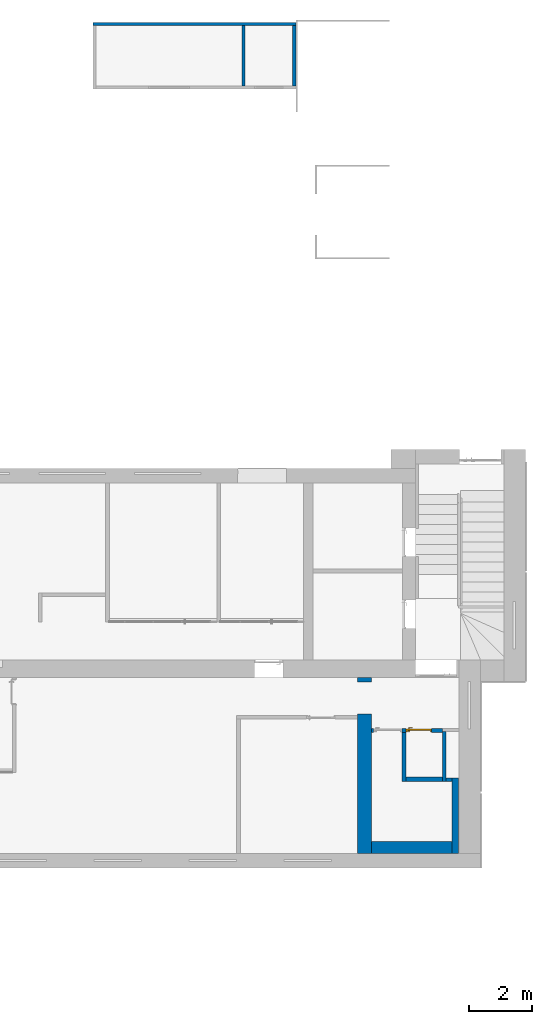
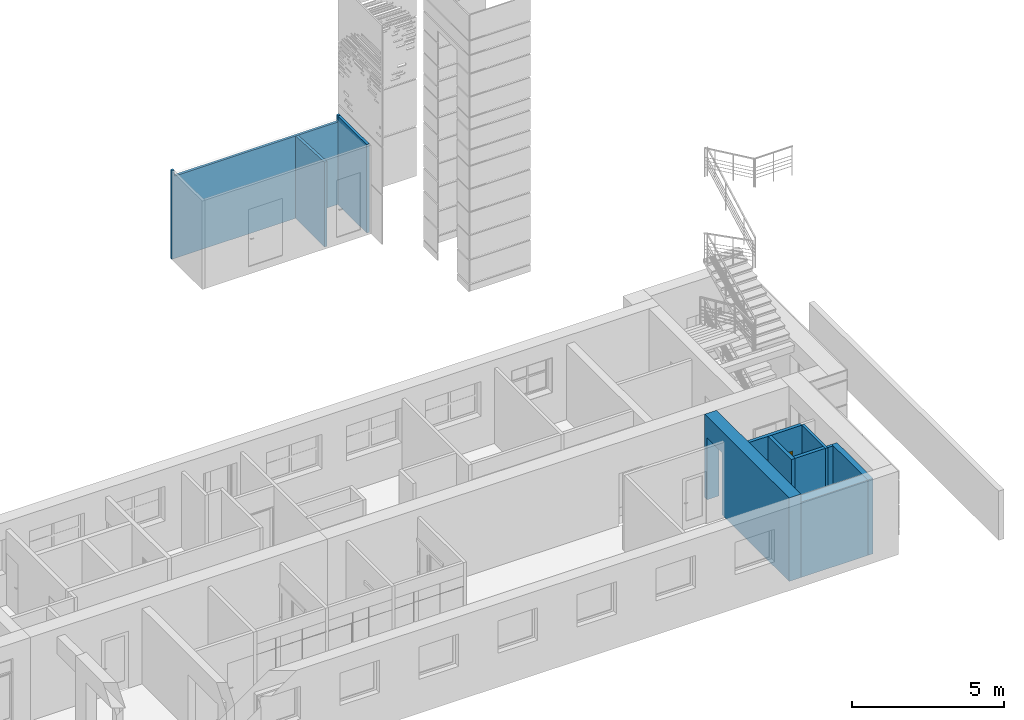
# One storey, part 28 of 49: 11 walls, 1 door, 13 openings.
"""IFC2X3 building model written with IfcOpenShell, lengths in millimetres."""

import ifcopenshell
import ifcopenshell.guid

model = None  # the IFC model being written
_history = None  # IfcOwnerHistory: only IFC2X3 demands one
_inside = {}  # id of a spatial element -> (the spatial element, [elements in it])
_under = {}  # id of a project, library or spatial element -> (it, [spatial elements below it])
_declared = {}  # id of a project -> (the project, [libraries it declares])
_typed = {}  # id of a type object -> (the type object, [elements of that type])
_made_of = {}  # id of a material, layer set ... -> (it, [elements and type objects made of it])


def new_model(schema):
    """Start an empty IFC model of exactly this schema.

    Asked for "IFC4X3", IfcOpenShell would pick the latest addendum, in which some entities
    have other attributes; the version numbers below select the first issue.
    IFC2X3 requires an IfcOwnerHistory on every rooted entity: one is made here for all.
    """
    global model, _history
    if schema == "IFC4X3":
        model = ifcopenshell.file(schema_version=(4, 3, 0, 0))
    else:
        model = ifcopenshell.file(schema=schema)
    _inside.clear()
    _under.clear()
    _declared.clear()
    _typed.clear()
    _made_of.clear()
    _history = None
    if model.schema == "IFC2X3":
        org = make("IfcOrganization", Name="unknown")
        user = make(
            "IfcPersonAndOrganization",
            ThePerson=make("IfcPerson", FamilyName="unknown"),
            TheOrganization=org,
        )
        app = make(
            "IfcApplication",
            ApplicationDeveloper=org,
            Version="unknown",
            ApplicationFullName="unknown",
            ApplicationIdentifier="unknown",
        )
        _history = make(
            "IfcOwnerHistory",
            OwningUser=user,
            OwningApplication=app,
            ChangeAction="ADDED",
            CreationDate=0,
        )
    return model


def make(cls, **values):
    """One entity of the class cls with the attributes given. An attribute that is None is left unset."""
    return model.create_entity(
        cls, **{name: value for name, value in values.items() if value is not None}
    )


def entity(cls, *values):
    """Any entity or typed value of the class cls, its attributes in the order of the schema. None: left unset."""
    e = model.create_entity(cls)
    for i, value in enumerate(values):
        if value is not None:
            e[i] = value
    return e


def rooted(cls, **values):
    """An entity with a GlobalId (a new one), such as an element, a storey or a relation."""
    return make(cls, GlobalId=ifcopenshell.guid.new(), OwnerHistory=_history, **values)


def si_unit(unit_type, name, prefix=None):
    """IfcSIUnit, for example si_unit("LENGTHUNIT", "METRE", prefix="MILLI")."""
    return make("IfcSIUnit", UnitType=unit_type, Prefix=prefix, Name=name)


def converted_unit(unit_type, name, factor, base, dimensions=None, offset=None):
    """IfcConversionBasedUnit, such as the inch: factor (a typed value) times the base unit."""
    return make(
        "IfcConversionBasedUnit"
        if offset is None
        else "IfcConversionBasedUnitWithOffset",
        ConversionOffset=offset,
        Dimensions=None
        if dimensions is None
        else entity("IfcDimensionalExponents", *dimensions),
        UnitType=unit_type,
        Name=name,
        ConversionFactor=make(
            "IfcMeasureWithUnit", ValueComponent=factor, UnitComponent=base
        ),
    )


def derived_unit(unit_type, elements):
    """IfcDerivedUnit: a product of units, each with its exponent."""
    return make(
        "IfcDerivedUnit",
        Elements=[
            make("IfcDerivedUnitElement", Unit=unit, Exponent=power)
            for unit, power in elements
        ],
        UnitType=unit_type,
    )


def assignment(units):
    """IfcUnitAssignment: the units of a project."""
    return None if units is None else make("IfcUnitAssignment", Units=units)


def point(xyz):
    """IfcCartesianPoint."""
    return None if xyz is None else make("IfcCartesianPoint", Coordinates=xyz)


def direction(xyz):
    """IfcDirection."""
    return None if xyz is None else make("IfcDirection", DirectionRatios=xyz)


def frame(location, z_axis=None, x_axis=None):
    """IfcAxis2Placement3D, a coordinate frame: its origin and axes. An axis left out is left unset."""
    return make(
        "IfcAxis2Placement3D",
        Location=point(location),
        Axis=direction(z_axis),
        RefDirection=direction(x_axis),
    )


def frame_2d(location, x_axis=None):
    """IfcAxis2Placement2D, a coordinate frame in the plane: its origin and x axis."""
    return make(
        "IfcAxis2Placement2D", Location=point(location), RefDirection=direction(x_axis)
    )


def origin():
    """The frame at (0, 0, 0) with its axes left unset."""
    return frame((0.0, 0.0, 0.0))


def origin_2d_with_axis():
    """The frame at (0, 0) in the plane with the x axis (1, 0) written out."""
    return frame_2d((0.0, 0.0), x_axis=(1.0, 0.0))


def place(relative_to, where):
    """IfcLocalPlacement: puts the frame where relative to a parent placement (None: the world)."""
    return make(
        "IfcLocalPlacement", PlacementRelTo=relative_to, RelativePlacement=where
    )


def context(
    kind, dimensions, precision=None, world=None, true_north=None, identifier=None
):
    """IfcGeometricRepresentationContext, for example the 3D "Model" context."""
    return make(
        "IfcGeometricRepresentationContext",
        ContextIdentifier=identifier,
        ContextType=kind,
        CoordinateSpaceDimension=dimensions,
        Precision=precision,
        WorldCoordinateSystem=world,
        TrueNorth=true_north,
    )


def subcontext(parent, identifier, kind, view, scale=None):
    """IfcGeometricRepresentationSubContext, for example "Body" below "Model"."""
    return make(
        "IfcGeometricRepresentationSubContext",
        ContextIdentifier=identifier,
        ContextType=kind,
        ParentContext=parent,
        TargetScale=scale,
        TargetView=view,
    )


def project(units=None, contexts=None):
    """IfcProject with its units and contexts."""
    return rooted(
        "IfcProject",
        Name="project",
        RepresentationContexts=contexts,
        UnitsInContext=assignment(units),
    )


def spatial(cls, under=None, at=None, **own):
    """A site, building, storey or space (cls), placed at a placement, below another one or the project."""
    s = rooted(cls, ObjectPlacement=at, **own)
    if under is not None:
        _under.setdefault(under.id(), (under, []))[1].append(s)
    return s


def polyline(points):
    """IfcPolyline through the points."""
    return make("IfcPolyline", Points=[point(p) for p in points])


def profile(cls, at=None, kind="AREA", **sizes):
    """A parametric profile (cls). Its sizes go by their IFC names, for example OverallWidth=200.0."""
    return make(cls, ProfileType=kind, Position=at, **sizes)


def rectangle(**sizes):
    """IfcRectangleProfileDef."""
    return profile("IfcRectangleProfileDef", **sizes)


def extrude(swept, where, along, depth):
    """IfcExtrudedAreaSolid: the profile swept, set in the frame where, extruded along a direction by depth."""
    return make(
        "IfcExtrudedAreaSolid",
        SweptArea=swept,
        Position=where,
        ExtrudedDirection=direction(along),
        Depth=depth,
    )


def clip(a, b, op="DIFFERENCE"):
    """IfcBooleanClippingResult: the solid a cut by the half space b."""
    return make(
        "IfcBooleanClippingResult", Operator=op, FirstOperand=a, SecondOperand=b
    )


def bounded_halfspace(plane, agree, where, boundary):
    """IfcPolygonalBoundedHalfSpace: a half space limited to a polygon's prism."""
    return make(
        "IfcPolygonalBoundedHalfSpace",
        BaseSurface=make("IfcPlane", Position=plane),
        AgreementFlag=agree,
        Position=where,
        PolygonalBoundary=boundary,
    )


def faces_of(points, faces, orient=None, outer=None):
    """IfcFace entities. A face is a list of loops; a loop is a list of indices into points, from 0.

    orient and outer hold one flag for each loop. By default every Orientation is true, the
    first loop of a face is its IfcFaceOuterBound and the others are IfcFaceBound.
    """
    made = []
    for i, loops in enumerate(faces):
        bounds = []
        for j, loop in enumerate(loops):
            is_outer = j == 0 if outer is None else outer[i][j]
            bounds.append(
                make(
                    "IfcFaceOuterBound" if is_outer else "IfcFaceBound",
                    Bound=make("IfcPolyLoop", Polygon=[points[k] for k in loop]),
                    Orientation=True if orient is None else orient[i][j],
                )
            )
        made.append(make("IfcFace", Bounds=bounds))
    return made


def faceted_brep(points, faces, orient=None, outer=None, voids=None):
    """IfcFacetedBrep: a solid bounded by flat faces; with voids (closed shells), ...WithVoids."""
    shared = [point(p) for p in points]
    hull = make("IfcClosedShell", CfsFaces=faces_of(shared, faces, orient, outer))
    if voids is None:
        return make("IfcFacetedBrep", Outer=hull)
    return make(
        "IfcFacetedBrepWithVoids",
        Outer=hull,
        Voids=[
            make(cls, CfsFaces=faces_of(shared, fs, o, b)) for cls, fs, o, b in voids
        ],
    )


def shape(context_of_items, identifier, shape_type, items):
    """IfcShapeRepresentation: the items that make up one representation, for example the "Body"."""
    return make(
        "IfcShapeRepresentation",
        ContextOfItems=context_of_items,
        RepresentationIdentifier=identifier,
        RepresentationType=shape_type,
        Items=items,
    )


def source(mapping_origin, context_of_items, identifier, shape_type, items):
    """IfcRepresentationMap: a shape defined once, which mapped items show again and again."""
    return make(
        "IfcRepresentationMap",
        MappingOrigin=mapping_origin,
        MappedRepresentation=shape(context_of_items, identifier, shape_type, items),
    )


def transform(
    local_origin,
    x_axis=None,
    y_axis=None,
    z_axis=None,
    scale=None,
    scale2=None,
    scale3=None,
    uniform=True,
):
    """IfcCartesianTransformationOperator3D, or its non-uniform kind. x_axis, y_axis, z_axis: its Axis1, 2, 3."""
    if uniform:
        return make(
            "IfcCartesianTransformationOperator3D",
            Axis1=direction(x_axis),
            Axis2=direction(y_axis),
            LocalOrigin=point(local_origin),
            Scale=scale,
            Axis3=direction(z_axis),
        )
    return make(
        "IfcCartesianTransformationOperator3DnonUniform",
        Axis1=direction(x_axis),
        Axis2=direction(y_axis),
        LocalOrigin=point(local_origin),
        Scale=scale,
        Axis3=direction(z_axis),
        Scale2=scale2,
        Scale3=scale3,
    )


def mapped(mapping_source, mapping_target):
    """IfcMappedItem: shows the shape of a source again, moved by a transform."""
    return make(
        "IfcMappedItem", MappingSource=mapping_source, MappingTarget=mapping_target
    )


def material(Name=None, Category=None):
    """IfcMaterial."""
    return make("IfcMaterial", Name=Name, Category=Category)


def material_list(materials):
    """IfcMaterialList."""
    return make("IfcMaterialList", Materials=materials)


def layer(
    of_material, thickness, ventilated=None, Name=None, Category=None, Priority=None
):
    """IfcMaterialLayer: one layer of a wall or slab, of a material (None: an air gap)."""
    return make(
        "IfcMaterialLayer",
        Material=of_material,
        LayerThickness=thickness,
        IsVentilated=ventilated,
        Name=Name,
        Category=Category,
        Priority=Priority,
    )


def layer_set(layers, Name=None):
    """IfcMaterialLayerSet."""
    return make("IfcMaterialLayerSet", MaterialLayers=layers, LayerSetName=Name)


def layer_usage(for_layer_set, set_direction, sense, offset, extent=None):
    """IfcMaterialLayerSetUsage: how a layer set lies in its element."""
    return make(
        "IfcMaterialLayerSetUsage",
        ForLayerSet=for_layer_set,
        LayerSetDirection=set_direction,
        DirectionSense=sense,
        OffsetFromReferenceLine=offset,
        ReferenceExtent=extent,
    )


def made_of(thing, what):
    """Note that an element or type object is made of a material, layer set ...; save() writes the relation."""
    if what is not None:
        _made_of.setdefault(what.id(), (what, []))[1].append(thing)
    return thing


def type_object(cls, material=None, **own):
    """A type object (cls), such as IfcWallType, which elements share."""
    return made_of(rooted(cls, **own), material)


def type_shapes(of_type, sources):
    """Give a type object the sources (RepresentationMaps) that its elements show as mapped items."""
    of_type.RepresentationMaps = sources


def element(
    cls,
    number,
    at=None,
    inside=None,
    cuts=None,
    type_object=None,
    material=None,
    context=None,
    identifier="Body",
    shape_type=None,
    held_by="IfcProductDefinitionShape",
    body=None,
    shapes=None,
    **own,
):
    """One element of the class cls, such as IfcWall. Its Tag is "e" and its number.

    at: its placement. inside: the storey or other place that contains it. cuts: it is an
    opening in that element (IfcRelVoidsElement). A single representation is given by context,
    identifier, shape_type and body (its items); several are given by shapes. held_by: the class
    of the entity that holds the representations. save() writes the other relations.
    """
    e = rooted(cls, Tag="e%d" % number, ObjectPlacement=at, **own)
    if body is not None:
        shapes = [shape(context, identifier, shape_type, body)]
    if shapes is not None:
        e.Representation = make(held_by, Representations=shapes)
    if inside is not None:
        _inside.setdefault(inside.id(), (inside, []))[1].append(e)
    if cuts is not None:
        rooted(
            "IfcRelVoidsElement", RelatingBuildingElement=cuts, RelatedOpeningElement=e
        )
    if type_object is not None:
        _typed.setdefault(type_object.id(), (type_object, []))[1].append(e)
    return made_of(e, material)


def fill(opening, filler):
    """IfcRelFillsElement: the door or window that sits in an opening."""
    return rooted(
        "IfcRelFillsElement",
        RelatingOpeningElement=opening,
        RelatedBuildingElement=filler,
    )


def aggregate(whole, parts):
    """IfcRelAggregates: a whole, such as a stair, and the parts it consists of."""
    return rooted("IfcRelAggregates", RelatingObject=whole, RelatedObjects=parts)


def save(model, path):
    """Write the relations noted so far, then the file.

    IfcRelAggregates (storeys below a building ...), IfcRelContainedInSpatialStructure (elements
    in a storey), IfcRelDefinesByType, IfcRelAssociatesMaterial and IfcRelDeclares: one each for
    every whole, place, type object, material and project.
    """
    for whole, parts in _under.values():
        aggregate(whole, parts)
    for where, things in _inside.values():
        rooted(
            "IfcRelContainedInSpatialStructure",
            RelatedElements=things,
            RelatingStructure=where,
        )
    for kind, things in _typed.values():
        rooted("IfcRelDefinesByType", RelatedObjects=things, RelatingType=kind)
    for what, things in _made_of.values():
        rooted("IfcRelAssociatesMaterial", RelatedObjects=things, RelatingMaterial=what)
    for by, libraries in _declared.values():
        rooted("IfcRelDeclares", RelatingContext=by, RelatedDefinitions=libraries)
    model.write(path)


model = new_model("IFC2X3")

# Units and contexts
model_context = context("Model", 3, precision=0.01, world=origin(), true_north=direction((6.12303176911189e-17, 1.0)))
body_context = subcontext(model_context, "Body", "Model", "MODEL_VIEW")
ifc_project = project(units=[si_unit("LENGTHUNIT", "METRE", prefix="MILLI"), si_unit("AREAUNIT", "SQUARE_METRE"), si_unit("VOLUMEUNIT", "CUBIC_METRE"), converted_unit("PLANEANGLEUNIT", "DEGREE", entity("IfcRatioMeasure", 0.0174532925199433), si_unit("PLANEANGLEUNIT", "RADIAN"), dimensions=[0, 0, 0, 0, 0, 0, 0]), si_unit("MASSUNIT", "GRAM", prefix="KILO"), derived_unit("MASSDENSITYUNIT", [(si_unit("MASSUNIT", "GRAM", prefix="KILO"), 1), (si_unit("LENGTHUNIT", "METRE"), -3)]), si_unit("TIMEUNIT", "SECOND"), si_unit("FREQUENCYUNIT", "HERTZ"), si_unit("THERMODYNAMICTEMPERATUREUNIT", "DEGREE_CELSIUS"), derived_unit("THERMALTRANSMITTANCEUNIT", [(si_unit("MASSUNIT", "GRAM", prefix="KILO"), 1), (si_unit("THERMODYNAMICTEMPERATUREUNIT", "KELVIN"), -1), (si_unit("TIMEUNIT", "SECOND"), -3)]), derived_unit("VOLUMETRICFLOWRATEUNIT", [(si_unit("LENGTHUNIT", "METRE"), 3), (si_unit("TIMEUNIT", "SECOND"), -1)]), si_unit("ELECTRICCURRENTUNIT", "AMPERE"), si_unit("ELECTRICVOLTAGEUNIT", "VOLT"), si_unit("POWERUNIT", "WATT"), si_unit("FORCEUNIT", "NEWTON", prefix="KILO"), si_unit("ILLUMINANCEUNIT", "LUX"), si_unit("LUMINOUSFLUXUNIT", "LUMEN"), si_unit("LUMINOUSINTENSITYUNIT", "CANDELA"), derived_unit("USERDEFINED", [(si_unit("MASSUNIT", "GRAM", prefix="KILO"), -1), (si_unit("LENGTHUNIT", "METRE"), -2), (si_unit("TIMEUNIT", "SECOND"), 3), (si_unit("LUMINOUSFLUXUNIT", "LUMEN"), 1)]), derived_unit("LINEARVELOCITYUNIT", [(si_unit("LENGTHUNIT", "METRE"), 1), (si_unit("TIMEUNIT", "SECOND"), -1)]), si_unit("PRESSUREUNIT", "PASCAL"), derived_unit("USERDEFINED", [(si_unit("LENGTHUNIT", "METRE"), -2), (si_unit("MASSUNIT", "GRAM", prefix="KILO"), 1), (si_unit("TIMEUNIT", "SECOND"), -2)])], contexts=[model_context])

# Site, building, storey
site_placement = place(None, frame((-151.875543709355, 2715.0, 0.0)))
site = spatial("IfcSite", under=ifc_project, at=site_placement, Name="Surface", CompositionType="ELEMENT")
building_placement = place(site_placement, origin())
building = spatial("IfcBuilding", under=site, at=building_placement, CompositionType="ELEMENT")
storey_placement = place(building_placement, origin())
storey = spatial("IfcBuildingStorey", under=building, at=storey_placement, Name="1 korrus", CompositionType="ELEMENT", Elevation=3.0969999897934e-10)

# Wall, opening
ifc_material_1 = material(Name="__Hall krohv")
ifc_layer_1 = layer(ifc_material_1, 10.0)
ifc_material_2 = material(Name="Tellis")
ifc_layer_2 = layer(ifc_material_2, 180.0)
ifc_layer_3 = layer(ifc_material_1, 10.0)
ifc_layer_set_1 = layer_set([ifc_layer_1, ifc_layer_2, ifc_layer_3], Name="Basic Wall:SS-01_ol.olev tellissein200")
ifc_layer_usage_1 = layer_usage(ifc_layer_set_1, "AXIS2", "NEGATIVE", 100.0)
wall_type_1 = type_object("IfcWallType", Name="Basic Wall:SS-01_ol.olev tellissein200", PredefinedType="STANDARD", material=ifc_layer_set_1)
wall_1_placement = place(storey_placement, frame((33631.6162682, 459.904632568, 0.0), z_axis=(0.0, 0.0, 1.0), x_axis=(0.0, 1.0, 0.0)))
wall_1 = element("IfcWallStandardCase", 1, at=wall_1_placement, inside=storey, type_object=wall_type_1, material=ifc_layer_usage_1, Name="SEIN - 003", ObjectType="Basic Wall:SS-01_ol.olev tellissein200", context=body_context, shape_type="SweptSolid", body=[
    extrude(rectangle(XDim=2375.87076719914, YDim=199.999999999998, at=frame_2d((1187.93538359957, 0.0), x_axis=(-1.0, 0.0))), origin(), (0.0, 0.0, 1.0), 3020.0),
])
opening_1_placement = place(wall_1_placement, origin())
element("IfcOpeningElement", 2, at=opening_1_placement, cuts=wall_1, Name="SEIN - 003", ObjectType="Opening", context=body_context, shape_type="SweptSolid", body=[
    extrude(rectangle(XDim=1300.0, YDim=1500.0, at=frame_2d((0.0, -2.27373675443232e-13), x_axis=(1.0, 0.0))), frame((4681.92792545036, -1282.5, 2010.0), z_axis=(0.0, 1.0, 0.0), x_axis=(0.0, 0.0, 1.0)), (0.0, 0.0, 1.0), 1666.5),
])

ifc_layer_4 = layer(ifc_material_1, 10.0)
ifc_layer_5 = layer(ifc_material_2, 430.0)
ifc_layer_6 = layer(ifc_material_1, 10.0)
ifc_layer_set_2 = layer_set([ifc_layer_4, ifc_layer_5, ifc_layer_6], Name="Basic Wall:SS-01_ol.olev tellissein450")
ifc_layer_usage_2 = layer_usage(ifc_layer_set_2, "AXIS2", "NEGATIVE", 225.0)
wall_type_2 = type_object("IfcWallType", Name="Basic Wall:SS-01_ol.olev tellissein450", PredefinedType="STANDARD", material=ifc_layer_set_2)
wall_2_placement = place(storey_placement, frame((30769.0171594, 6010.0, 0.0), z_axis=(0.0, 0.0, 1.0), x_axis=(0.0, -1.0, 0.0)))
wall_2 = element("IfcWallStandardCase", 3, at=wall_2_placement, inside=storey, type_object=wall_type_2, material=ifc_layer_usage_2, Name="SEIN - 002", ObjectType="Basic Wall:SS-01_ol.olev tellissein450", context=body_context, shape_type="SweptSolid", body=[
    extrude(rectangle(XDim=5550.09536743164, YDim=450.000000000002, at=frame_2d((2775.04768371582, 0.0), x_axis=(-1.0, 0.0))), origin(), (0.0, 0.0, 1.0), 3350.0),
])
opening_2_placement = place(wall_2_placement, origin())
element("IfcOpeningElement", 4, at=opening_2_placement, cuts=wall_2, Name="SEIN - 002", ObjectType="Opening", context=body_context, shape_type="SweptSolid", body=[
    extrude(rectangle(XDim=2490.0, YDim=1000.0, at=frame_2d((0.0, -7.95807864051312e-13), x_axis=(1.0, 0.0))), frame((647.332916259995, -225.0, 1245.0), z_axis=(0.0, 1.0, 0.0), x_axis=(0.0, 0.0, -1.0)), (0.0, 0.0, 1.0), 450.000000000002),
])

# Wall, openings
ifc_layer_7 = layer(ifc_material_1, 10.0)
ifc_layer_8 = layer(ifc_material_2, 350.0)
ifc_layer_9 = layer(ifc_material_1, 10.0)
ifc_layer_set_3 = layer_set([ifc_layer_7, ifc_layer_8, ifc_layer_9], Name="Basic Wall:SS-01_ol.olev tellissein370")
ifc_layer_usage_3 = layer_usage(ifc_layer_set_3, "AXIS2", "NEGATIVE", 185.0)
wall_type_3 = type_object("IfcWallType", Name="Basic Wall:SS-01_ol.olev tellissein370", PredefinedType="STANDARD", material=ifc_layer_set_3)
wall_3_placement = place(storey_placement, frame((30994.0171594, 644.904632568, 0.0)))
wall_3 = element("IfcWallStandardCase", 5, at=wall_3_placement, inside=storey, type_object=wall_type_3, material=ifc_layer_usage_3, Name="SEIN - 002", ObjectType="Basic Wall:SS-01_ol.olev tellissein370", context=body_context, shape_type="SweptSolid", body=[
    extrude(rectangle(XDim=2537.5991088, YDim=370.0, at=frame_2d((1268.7995544, 0.0), x_axis=(-1.0, 0.0))), origin(), (0.0, 0.0, 1.0), 3020.0),
])
opening_3_placement = place(wall_3_placement, origin())
element("IfcOpeningElement", 6, at=opening_3_placement, cuts=wall_3, Name="SEIN - 002", ObjectType="Opening", context=body_context, shape_type="SweptSolid", body=[
    extrude(rectangle(XDim=1300.0, YDim=1500.0, at=frame_2d((0.0, -5.11590769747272e-13), x_axis=(1.0, 0.0))), frame((-23013.2758951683, -1248.0, 2010.0), z_axis=(0.0, 1.0, 0.0), x_axis=(0.0, 0.0, 1.0)), (0.0, 0.0, 1.0), 1666.5),
])
opening_4_placement = place(wall_3_placement, origin())
element("IfcOpeningElement", 7, at=opening_4_placement, cuts=wall_3, Name="SEIN - 002", ObjectType="Opening", context=body_context, shape_type="SweptSolid", body=[
    extrude(rectangle(XDim=1300.0, YDim=1500.0, at=frame_2d((0.0, -1.08002495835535e-12), x_axis=(1.0, 0.0))), frame((-20013.2758951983, -1248.0, 2010.0), z_axis=(0.0, 1.0, 0.0), x_axis=(0.0, 0.0, 1.0)), (0.0, 0.0, 1.0), 1666.5),
])
opening_5_placement = place(wall_3_placement, origin())
element("IfcOpeningElement", 8, at=opening_5_placement, cuts=wall_3, Name="SEIN - 002", ObjectType="Opening", context=body_context, shape_type="SweptSolid", body=[
    extrude(rectangle(XDim=1300.0, YDim=1500.0, at=frame_2d((0.0, -2.1600499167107e-12), x_axis=(1.0, 0.0))), frame((-17013.2758951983, -1248.0, 2010.0), z_axis=(0.0, 1.0, 0.0), x_axis=(0.0, 0.0, 1.0)), (0.0, 0.0, 1.0), 1666.5),
])
opening_6_placement = place(wall_3_placement, origin())
element("IfcOpeningElement", 9, at=opening_6_placement, cuts=wall_3, Name="SEIN - 002", ObjectType="Opening", context=body_context, shape_type="SweptSolid", body=[
    extrude(rectangle(XDim=1300.0, YDim=1500.0, at=origin_2d_with_axis()), frame((-14013.2758951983, -1248.0, 2010.0), z_axis=(0.0, 1.0, 0.0), x_axis=(0.0, 0.0, 1.0)), (0.0, 0.0, 1.0), 1666.5),
])
opening_7_placement = place(wall_3_placement, origin())
element("IfcOpeningElement", 10, at=opening_7_placement, cuts=wall_3, Name="SEIN - 002", ObjectType="Opening", context=body_context, shape_type="SweptSolid", body=[
    extrude(rectangle(XDim=1300.0, YDim=1500.0, at=frame_2d((0.0, -1.08002495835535e-12), x_axis=(1.0, 0.0))), frame((-11013.2758951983, -1248.0, 2010.0), z_axis=(0.0, 1.0, 0.0), x_axis=(0.0, 0.0, 1.0)), (0.0, 0.0, 1.0), 1666.5),
])
opening_8_placement = place(wall_3_placement, origin())
element("IfcOpeningElement", 11, at=opening_8_placement, cuts=wall_3, Name="SEIN - 002", ObjectType="Opening", context=body_context, shape_type="SweptSolid", body=[
    extrude(rectangle(XDim=1300.0, YDim=1500.0, at=frame_2d((0.0, -2.1600499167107e-12), x_axis=(1.0, 0.0))), frame((-8013.27589519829, -1248.0, 2010.0), z_axis=(0.0, 1.0, 0.0), x_axis=(0.0, 0.0, 1.0)), (0.0, 0.0, 1.0), 1666.5),
])
opening_9_placement = place(wall_3_placement, origin())
element("IfcOpeningElement", 12, at=opening_9_placement, cuts=wall_3, Name="SEIN - 002", ObjectType="Opening", context=body_context, shape_type="SweptSolid", body=[
    extrude(rectangle(XDim=1300.0, YDim=1500.0, at=frame_2d((0.0, 2.1600499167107e-12), x_axis=(1.0, 0.0))), frame((-5013.2758951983, -1248.0, 2010.0), z_axis=(0.0, 1.0, 0.0), x_axis=(0.0, 0.0, 1.0)), (0.0, 0.0, 1.0), 1666.5),
])
opening_10_placement = place(wall_3_placement, origin())
element("IfcOpeningElement", 13, at=opening_10_placement, cuts=wall_3, Name="SEIN - 002", ObjectType="Opening", context=body_context, shape_type="SweptSolid", body=[
    extrude(rectangle(XDim=1300.0, YDim=1500.0, at=frame_2d((0.0, 2.1600499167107e-12), x_axis=(1.0, 0.0))), frame((-2013.2758951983, -1248.0, 2010.0), z_axis=(0.0, 1.0, 0.0), x_axis=(0.0, 0.0, 1.0)), (0.0, 0.0, 1.0), 1666.5),
])
opening_11_placement = place(wall_3_placement, origin())
element("IfcOpeningElement", 14, at=opening_11_placement, cuts=wall_3, Name="SEIN - 002", ObjectType="Opening", context=body_context, shape_type="SweptSolid", body=[
    extrude(rectangle(XDim=2540.00000000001, YDim=4120.0, at=frame_2d((0.0, 0.0), x_axis=(0.0, 1.0))), frame((-27494.016519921, -1709.0, 1270.0), z_axis=(0.0, 1.0, 0.0), x_axis=(1.0, 0.0, 0.0)), (0.0, 0.0, 1.0), 3048.0),
])

# Walls
ifc_material_3 = material(Name="Keraamiline_plaat")
ifc_layer_10 = layer(ifc_material_3, 10.0)
ifc_material_4 = material(Name="__Kips GKB_niiskuskindel")
ifc_layer_11 = layer(ifc_material_4, 12.5)
ifc_layer_12 = layer(ifc_material_4, 12.5)
ifc_material_5 = material(Name="__Soojustus EPS")
ifc_layer_13 = layer(ifc_material_5, 66.0)
ifc_layer_14 = layer(ifc_material_4, 12.5)
ifc_layer_15 = layer(ifc_material_4, 12.5)
ifc_layer_16 = layer(ifc_material_3, 10.0)
ifc_layer_set_4 = layer_set([ifc_layer_10, ifc_layer_11, ifc_layer_12, ifc_layer_13, ifc_layer_14, ifc_layer_15, ifc_layer_16], Name="Basic Wall:SS-5_Kipssein niiskete ruumide vahel")
ifc_layer_usage_4 = layer_usage(ifc_layer_set_4, "AXIS2", "NEGATIVE", 68.0)
wall_type_4 = type_object("IfcWallType", Name="Basic Wall:SS-5_Kipssein niiskete ruumide vahel", PredefinedType="STANDARD", material=ifc_layer_set_4)
wall_4_placement = place(storey_placement, frame((32080.1633575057, 2803.77539976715, 0.0)))
element("IfcWallStandardCase", 15, at=wall_4_placement, inside=storey, type_object=wall_type_4, material=ifc_layer_usage_4, Name="Basic Wall:SS-5_Kipssein niiskete ruumide vahel", ObjectType="Basic Wall:SS-5_Kipssein niiskete ruumide vahel", context=body_context, shape_type="SweptSolid", body=[
    extrude(rectangle(XDim=1151.59451440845, YDim=136.0, at=frame_2d((575.797257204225, 1.13686837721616e-13), x_axis=(-1.0, 0.0))), origin(), (0.0, 0.0, 1.0), 3020.0),
])
ifc_layer_usage_5 = layer_usage(ifc_layer_set_4, "AXIS2", "NEGATIVE", 68.0)
wall_5_placement = place(storey_placement, frame((32012.1633575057, 2735.77539976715, 0.0), z_axis=(0.0, 0.0, 1.0), x_axis=(0.0, 1.0, 0.0)))
element("IfcWallStandardCase", 16, at=wall_5_placement, inside=storey, type_object=wall_type_4, material=ifc_layer_usage_5, Name="Basic Wall:SS-5_Kipssein niiskete ruumide vahel", ObjectType="Basic Wall:SS-5_Kipssein niiskete ruumide vahel", context=body_context, shape_type="SweptSolid", body=[
    extrude(rectangle(XDim=1539.83427914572, YDim=136.000000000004, at=frame_2d((769.917139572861, 7.53175299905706e-13), x_axis=(-1.0, 0.0))), origin(), (0.0, 0.0, 1.0), 3020.0),
])

# Wall, openings, door
ifc_material_6 = material(Name="__Kips GN13_tava")
ifc_layer_17 = layer(ifc_material_6, 12.5)
ifc_layer_18 = layer(ifc_material_6, 12.5)
ifc_layer_19 = layer(ifc_material_5, 66.0)
ifc_layer_20 = layer(ifc_material_4, 12.5)
ifc_layer_21 = layer(ifc_material_4, 12.5)
ifc_layer_22 = layer(ifc_material_3, 10.0)
ifc_layer_set_5 = layer_set([ifc_layer_17, ifc_layer_18, ifc_layer_19, ifc_layer_20, ifc_layer_21, ifc_layer_22], Name="Basic Wall:SS-4_Kipssein tava ja niiske ruumi vahel")
ifc_layer_usage_6 = layer_usage(ifc_layer_set_5, "AXIS2", "NEGATIVE", 63.0)
wall_type_5 = type_object("IfcWallType", Name="Basic Wall:SS-4_Kipssein tava ja niiske ruumi vahel", PredefinedType="STANDARD", material=ifc_layer_set_5)
wall_6_placement = place(storey_placement, frame((30994.0171594, 4338.60967891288, 0.0)))
wall_6 = element("IfcWallStandardCase", 17, at=wall_6_placement, inside=storey, type_object=wall_type_5, material=ifc_layer_usage_6, Name="Basic Wall:SS-4_Kipssein tava ja niiske ruumi vahel", ObjectType="Basic Wall:SS-4_Kipssein tava ja niiske ruumi vahel", context=body_context, shape_type="SweptSolid", body=[
    extrude(rectangle(XDim=2237.7407125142, YDim=126.0, at=frame_2d((1118.8703562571, 1.06581410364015e-14), x_axis=(-1.0, 0.0))), origin(), (0.0, 0.0, 1.0), 3020.0),
])
opening_12_placement = place(wall_6_placement, frame((1090.16571471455, -63.0, 0.0)))
opening_12 = element("IfcOpeningElement", 18, at=opening_12_placement, cuts=wall_6, Name="Ühepoolsed:SU-05.:1", ObjectType="Opening", context=body_context, shape_type="SweptSolid", body=[
    extrude(rectangle(XDim=2099.99999999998, YDim=800.0, at=frame_2d((1049.99999999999, 400.0), x_axis=(1.0, 0.0))), frame((0.0, 0.0, 0.0), z_axis=(0.0, 1.0, 0.0), x_axis=(0.0, 0.0, 1.0)), (0.0, 0.0, 1.0), 126.0),
])
opening_13_placement = place(wall_6_placement, frame((50.1397079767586, -63.0, 0.0)))
element("IfcOpeningElement", 19, at=opening_13_placement, cuts=wall_6, Name="Ühepoolsed:SU-06.:1", ObjectType="Opening", context=body_context, shape_type="SweptSolid", body=[
    extrude(rectangle(XDim=2099.99999999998, YDim=900.0, at=frame_2d((1049.99999999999, 450.0), x_axis=(1.0, 0.0))), frame((0.0, 0.0, 0.0), z_axis=(0.0, 1.0, 0.0), x_axis=(0.0, 0.0, 1.0)), (0.0, 0.0, 1.0), 126.0),
])
ifc_material_7 = material(Name="_Alumiiniumprofiil - must")
ifc_material_8 = material(Name="__Uks_hele tamm")
ifc_material_list_1 = material_list([ifc_material_7, ifc_material_8])
ifc_material_list_2 = material_list([ifc_material_7, ifc_material_8])
door_style = type_object("IfcDoorStyle", Name="SU-05.", ConstructionType="NOTDEFINED", OperationType="FOLDING_TO_LEFT", ParameterTakesPrecedence=False, Sizeable=False, material=ifc_material_list_2)
shared_shape = source(origin(), body_context, "Body", "Brep", [
    faceted_brep([(100.0, 16.0, 1112.5), (100.0, 54.0, 1112.5), (75.0, 54.0, 1112.5), (75.0, 11.0, 1112.5), (195.0, 11.0, 1112.5), (195.0, 16.0, 1112.5), (100.0, 16.0, 1087.5), (195.0, 16.0, 1087.5), (195.0, 11.0, 1087.5), (75.0, 11.0, 1087.5), (75.0, 54.0, 1087.5), (100.0, 54.0, 1087.5)], [[[0, 1, 2, 3, 4, 5]], [[6, 7, 8, 9, 10, 11]], [[1, 0, 6, 11]], [[2, 1, 11, 10]], [[3, 2, 10, 9]], [[4, 3, 9, 8]], [[5, 4, 8, 7]], [[0, 5, 7, 6]]]),
    faceted_brep([(112.5, 54.0, 1137.5), (112.5, 56.0, 1137.5), (62.5000000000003, 56.0, 1137.5), (62.5000000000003, 54.0, 1137.5), (112.5, 54.0, 1017.5), (62.5000000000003, 54.0, 1017.5), (62.5000000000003, 56.0, 1017.5), (112.5, 56.0, 1017.5)], [[[0, 1, 2, 3]], [[4, 5, 6, 7]], [[1, 0, 4, 7]], [[2, 1, 7, 6]], [[3, 2, 6, 5]], [[0, 3, 5, 4]]]),
    faceted_brep([(100.0, 146.0, 1112.5), (195.0, 146.0, 1112.5), (195.0, 151.0, 1112.5), (75.0, 151.0, 1112.5), (75.0, 108.0, 1112.5), (100.0, 108.0, 1112.5), (100.0, 146.0, 1087.5), (100.0, 108.0, 1087.5), (75.0, 108.0, 1087.5), (75.0, 151.0, 1087.5), (195.0, 151.0, 1087.5), (195.0, 146.0, 1087.5)], [[[0, 1, 2, 3, 4, 5]], [[6, 7, 8, 9, 10, 11]], [[5, 7, 6, 0]], [[4, 8, 7, 5]], [[3, 9, 8, 4]], [[2, 10, 9, 3]], [[1, 11, 10, 2]], [[0, 6, 11, 1]]]),
    faceted_brep([(112.5, 108.0, 1137.5), (62.5000000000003, 108.0, 1137.5), (62.5000000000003, 106.0, 1137.5), (112.5, 106.0, 1137.5), (112.5, 108.0, 1017.5), (112.5, 106.0, 1017.5), (62.5000000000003, 106.0, 1017.5), (62.5000000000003, 108.0, 1017.5)], [[[0, 1, 2, 3]], [[4, 5, 6, 7]], [[3, 5, 4, 0]], [[2, 6, 5, 3]], [[1, 7, 6, 2]], [[0, 4, 7, 1]]]),
    faceted_brep([(800.0, 16.0, 0.0), (760.0, 16.0, 0.0), (760.0, 56.0, 0.0), (775.0, 56.0, 0.0), (775.0, 106.0, 0.0), (800.0, 106.0, 0.0), (800.0, 16.0, 2100.0), (0.0, 16.0, 2100.0), (0.0, 16.0, 0.0), (40.0, 16.0, 0.0), (40.0, 16.0, 2060.0), (760.0, 16.0, 2060.0), (760.0, 56.0, 2060.0), (40.0, 56.0, 2060.0), (40.0, 56.0, 0.0), (25.0, 56.0, 0.0), (25.0, 56.0, 2075.0), (775.0, 56.0, 2075.0), (775.0, 106.0, 2075.0), (25.0, 106.0, 2075.0), (25.0, 106.0, 0.0), (0.0, 106.0, 0.0), (0.0, 106.0, 2100.0), (800.0, 106.0, 2100.0)], [[[0, 1, 2, 3, 4, 5]], [[1, 0, 6, 7, 8, 9, 10, 11]], [[2, 1, 11, 12]], [[3, 2, 12, 13, 14, 15, 16, 17]], [[4, 3, 17, 18]], [[5, 4, 18, 19, 20, 21, 22, 23]], [[0, 5, 23, 6]], [[8, 7, 22, 21]], [[9, 8, 21, 20, 15, 14]], [[10, 9, 14, 13]], [[16, 15, 20, 19]], [[11, 10, 13, 12]], [[17, 16, 19, 18]], [[7, 6, 23, 22]]]),
    faceted_brep([(25.0, 56.0, 2075.0), (25.0, 56.0, 20.0), (775.0, 56.0, 20.0), (775.0, 56.0, 2075.0), (25.0, 106.0, 2075.0), (775.0, 106.0, 2075.0), (775.0, 106.0, 20.0), (25.0, 106.0, 20.0)], [[[0, 1, 2, 3]], [[4, 5, 6, 7]], [[1, 0, 4, 7]], [[2, 1, 7, 6]], [[3, 2, 6, 5]], [[0, 3, 5, 4]]]),
])
type_shapes(door_style, [shared_shape])
door_placement = place(opening_12_placement, origin())
door = element("IfcDoor", 20, at=door_placement, inside=storey, type_object=door_style, material=ifc_material_list_1, Name="Ühepoolsed:SU-05.", ObjectType="SU-05.", OverallHeight=2099.99999999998, OverallWidth=800.0, context=body_context, shape_type="MappedRepresentation", body=[
    mapped(shared_shape, transform((0.0, 0.0, 0.0), scale=1.0)),
])
fill(opening_12, door)

# Walls
ifc_material_9 = material(Name="__Helehall")
ifc_layer_23 = layer(ifc_material_9, 10.0)
ifc_material_10 = material(Name="__Kergblokk")
ifc_layer_24 = layer(ifc_material_10, 90.0)
ifc_layer_set_6 = layer_set([ifc_layer_23, ifc_layer_24], Name="Basic Wall:SS-6_Šahti sein EI-60")
ifc_layer_usage_7 = layer_usage(ifc_layer_set_6, "AXIS2", "POSITIVE", -50.0)
wall_type_6 = type_object("IfcWallType", Name="Basic Wall:SS-6_Šahti sein EI-60", PredefinedType="STANDARD", material=ifc_layer_set_6)
wall_7_placement = place(storey_placement, frame((33331.7578719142, 2785.77539976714, 0.0)))
element("IfcWallStandardCase", 21, at=wall_7_placement, inside=storey, type_object=wall_type_6, material=ifc_layer_usage_7, Name="Basic Wall:SS-6_Šahti sein EI-60", ObjectType="Basic Wall:SS-6_Šahti sein EI-60", context=body_context, shape_type="SweptSolid", body=[
    extrude(rectangle(XDim=199.858396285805, YDim=100.0, at=frame_2d((99.9291981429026, 0.0), x_axis=(-1.0, 0.0))), origin(), (0.0, 0.0, 1.0), 3020.0),
])
ifc_layer_usage_8 = layer_usage(ifc_layer_set_6, "AXIS2", "POSITIVE", -50.0)
wall_8_placement = place(storey_placement, frame((33281.7578719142, 4301.60967891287, 0.0), z_axis=(0.0, 0.0, 1.0), x_axis=(0.0, -1.0, 0.0)))
element("IfcWallStandardCase", 22, at=wall_8_placement, inside=storey, type_object=wall_type_6, material=ifc_layer_usage_8, Name="Basic Wall:SS-6_Šahti sein EI-60", ObjectType="Basic Wall:SS-6_Šahti sein EI-60", context=body_context, shape_type="SweptSolid", body=[
    extrude(rectangle(XDim=1565.83427914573, YDim=100.000000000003, at=frame_2d((782.917139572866, 1.22213350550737e-12), x_axis=(-1.0, 0.0))), origin(), (0.0, 0.0, 1.0), 3020.0),
])
ifc_material_11 = material(Name="External face timepruun h=1100mm")
ifc_layer_25 = layer(ifc_material_11, 1.0)
ifc_material_12 = material(Name="Core Mineral wool Mineral Wool h=1100mm")
ifc_layer_26 = layer(ifc_material_12, 98.0)
ifc_material_13 = material(Name="Internal face RAL 7035 h=1100mm")
ifc_layer_27 = layer(ifc_material_13, 1.0)
ifc_layer_set_7 = layer_set([ifc_layer_25, ifc_layer_26, ifc_layer_27], Name="Basic Wall:VS-3.1_SW kergpaneel 100mm")
ifc_layer_usage_9 = layer_usage(ifc_layer_set_7, "AXIS2", "POSITIVE", -50.00000000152)
wall_type_7 = type_object("IfcWallType", Name="Basic Wall:VS-3.1_SW kergpaneel 100mm", PredefinedType="STANDARD", material=ifc_layer_set_7)
wall_9_placement = place(storey_placement, frame((28601.6162682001, 26634.9971338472, 0.0), z_axis=(0.0, 0.0, 1.0), x_axis=(-1.0, 0.0, 0.0)))
element("IfcWallStandardCase", 23, at=wall_9_placement, inside=storey, type_object=wall_type_7, material=ifc_layer_usage_9, Name="Basic Wall:VS-3.1_SW kergpaneel 100mm", ObjectType="Basic Wall:VS-3.1_SW kergpaneel 100mm", context=body_context, shape_type="Clipping", body=[
    clip(extrude(rectangle(XDim=6400.00000000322, YDim=100.000000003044, at=frame_2d((3200.00000000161, -4.2632564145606e-14), x_axis=(-1.0, 0.0))), origin(), (0.0, 0.0, 1.0), 3550.0), bounded_halfspace(frame((100.0, -50.0, 3300.0), z_axis=(0.0, -0.052335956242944, 0.998629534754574), x_axis=(1.0, 0.0, 0.0)), False, frame((100.0, -50.0, 3300.0)), polyline([(0.0, 0.0), (6200.0, 0.0), (6200.0, 100.0), (1600.0, 100.0), (1500.0, 100.0), (0.0, 100.0), (0.0, 0.0)]))),
])
ifc_layer_usage_10 = layer_usage(ifc_layer_set_7, "AXIS2", "POSITIVE", -50.00000000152)
wall_10_placement = place(storey_placement, frame((28551.6162681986, 24685.0376316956, 0.0), z_axis=(0.0, 0.0, 1.0), x_axis=(0.0, 1.0, 0.0)))
element("IfcWallStandardCase", 24, at=wall_10_placement, inside=storey, type_object=wall_type_7, material=ifc_layer_usage_10, Name="Basic Wall:VS-3.1_SW kergpaneel 100mm", ObjectType="Basic Wall:VS-3.1_SW kergpaneel 100mm", context=body_context, shape_type="SweptSolid", body=[
    extrude(rectangle(XDim=1899.95950215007, YDim=100.000000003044, at=frame_2d((949.979751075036, -1.35003119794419e-13), x_axis=(-1.0, 0.0))), origin(), (0.0, 0.0, 1.0), 3550.0),
])
ifc_layer_28 = layer(ifc_material_11, 1.0)
ifc_layer_29 = layer(ifc_material_12, 98.0)
ifc_layer_30 = layer(ifc_material_13, 1.0)
ifc_layer_set_8 = layer_set([ifc_layer_28, ifc_layer_29, ifc_layer_30], Name="Basic Wall:SW kergpaneel 100mm")
ifc_layer_usage_11 = layer_usage(ifc_layer_set_8, "AXIS2", "POSITIVE", -50.00000000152)
wall_type_8 = type_object("IfcWallType", Name="Basic Wall:SW kergpaneel 100mm", PredefinedType="STANDARD", material=ifc_layer_set_8)
wall_11_placement = place(storey_placement, frame((26951.6162682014, 24685.0376316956, 0.0), z_axis=(0.0, 0.0, 1.0), x_axis=(0.0, 1.0, 0.0)))
element("IfcWallStandardCase", 25, at=wall_11_placement, inside=storey, type_object=wall_type_8, material=ifc_layer_usage_11, Name="Basic Wall:SW kergpaneel 100mm", ObjectType="Basic Wall:SW kergpaneel 100mm", context=body_context, shape_type="Clipping", body=[
    clip(extrude(rectangle(XDim=1899.95950215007, YDim=100.000000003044, at=frame_2d((949.979751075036, -1.35003119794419e-13), x_axis=(-1.0, 0.0))), origin(), (0.0, 0.0, 1.0), 3404.81343616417), bounded_halfspace(frame((0.0, -50.0, 3404.81343616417), z_axis=(0.052335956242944, 0.0, 0.998629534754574), x_axis=(0.0, 1.0, 0.0)), False, frame((0.0, -50.0, 3404.81343616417)), polyline([(0.0, 0.0), (1899.95950215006, 0.0), (1899.95950215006, 100.0), (0.0, 100.0), (0.0, 0.0)]))),
])

save(model, "model.ifc")
